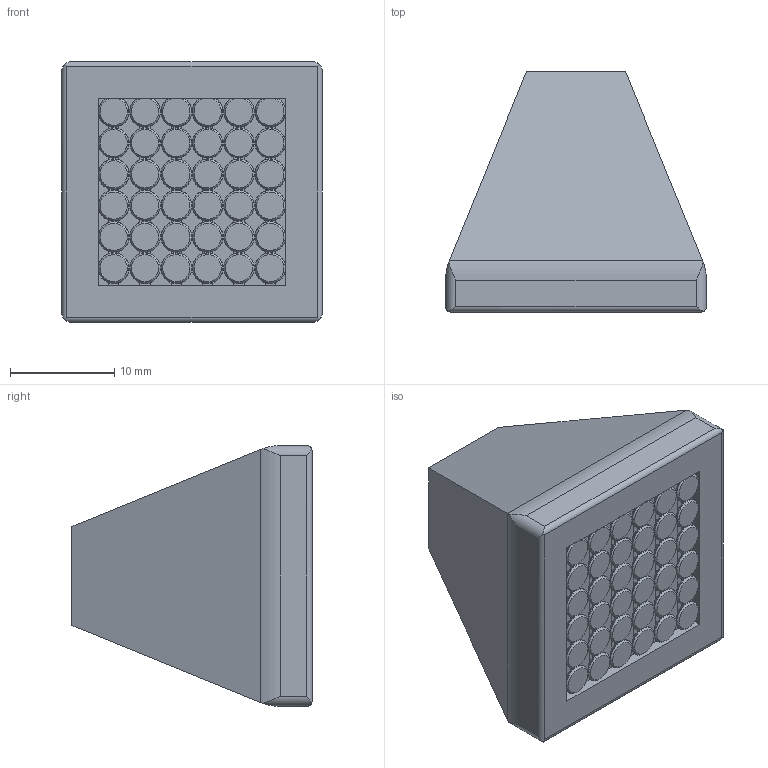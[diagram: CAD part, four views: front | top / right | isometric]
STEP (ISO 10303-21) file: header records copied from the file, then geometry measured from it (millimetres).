
FILE_DESCRIPTION( ( '' ), '1' );
FILE_NAME( 'C:/Documents and Settings/Nikhil/Desktop/Nik/Done/9113698.stp', '2013-10-23T11:37:35', ( '' ), ( '' ), ' ', ' ', ' ' );
FILE_SCHEMA( ( 'automotive_design' ) );
Length unit declared in the file: millimetre
Products named in the file (1): 1
Bounding box: 25 x 23 x 25 mm (x, y, z)
Volume: 8170.1 mm3; surface area: 3407 mm2
Topology: 1 solids, 1 shells, 456 faces, 1628 edges, 1020 vertices
Faces by surface type: torus 216, cone 150, plane 76, cylinder 14
Entity records: 34396 total; most frequent: CARTESIAN_POINT 3909, DIRECTION 3210, ORIENTED_EDGE 3112, STYLED_ITEM 3033, PRESENTATION_STYLE_ASSIGNMENT 3033, COLOUR_RGB 3033, EDGE_CURVE 1556, CURVE_STYLE 1556
